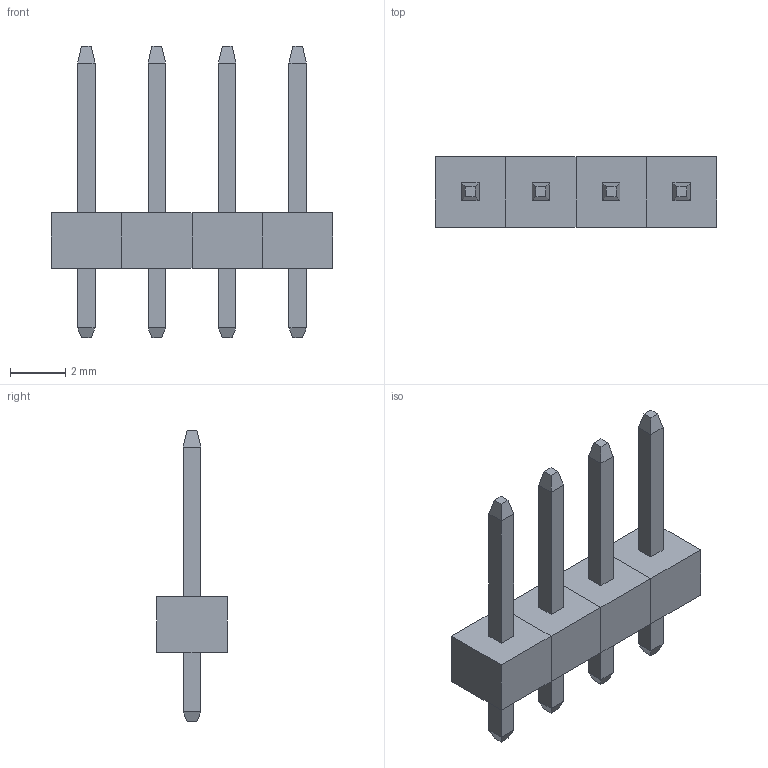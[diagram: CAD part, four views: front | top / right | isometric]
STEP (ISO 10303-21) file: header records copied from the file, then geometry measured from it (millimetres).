
FILE_DESCRIPTION(('shape.step'),'2;1');
FILE_NAME('shape.step','2026-11-03',('tscircuit'),('tscircuit'),'generator','','');
FILE_SCHEMA(('AUTOMOTIVE_DESIGN { 1 0 10303 214 1 1 1 1 }'));
Length unit declared in the file: millimetre
Products named in the file (1): shape
Bounding box: 10.16 x 2.54 x 10.5 mm (x, y, z)
Volume: 65.4 mm3; surface area: 226.5 mm2
Topology: 12 solids, 12 shells, 104 faces, 208 edges, 128 vertices
Faces by surface type: plane 104
Entity records: 2472 total; most frequent: DIRECTION 418, ORIENTED_EDGE 416, CARTESIAN_POINT 233, VECTOR 208, LINE 208, EDGE_CURVE 208, VERTEX_POINT 128, AXIS2_PLACEMENT_3D 105
